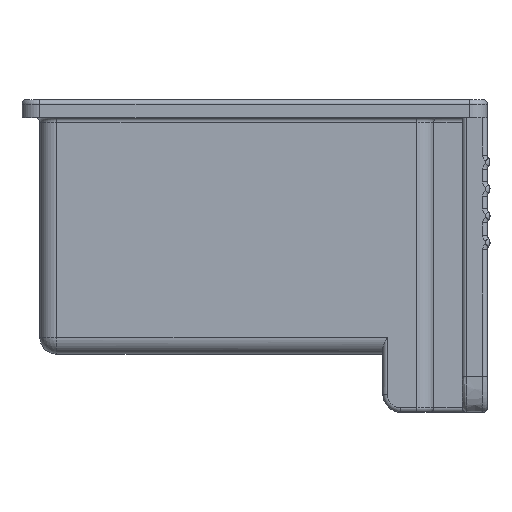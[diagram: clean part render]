
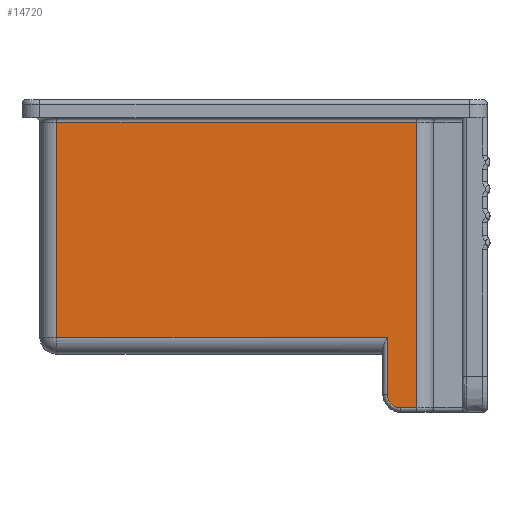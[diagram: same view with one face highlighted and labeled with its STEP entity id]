
A CAD part, left-side view. The second image highlights one B-rep face of the part: STEP entity #14720.
In plain terms, the highlighted planar face has unit normal (-1, 0, 0).
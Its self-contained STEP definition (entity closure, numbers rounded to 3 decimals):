
#3581=DIRECTION('',(0.,1.,0.));
#3582=VECTOR('',#3581,37.);
#3583=CARTESIAN_POINT('',(-46.2,11.2,-26.6));
#3584=LINE('',#3583,#3582);
#3585=DIRECTION('',(0.,0.,1.));
#3586=VECTOR('',#3585,24.1);
#3587=CARTESIAN_POINT('',(-46.2,48.2,-26.6));
#3588=LINE('',#3587,#3586);
#3589=DIRECTION('',(0.,1.,0.));
#3590=VECTOR('',#3589,40.3);
#3591=CARTESIAN_POINT('',(-46.2,7.9,-2.5));
#3592=LINE('',#3591,#3590);
#3593=DIRECTION('',(0.,0.,-1.));
#3594=VECTOR('',#3593,32.);
#3595=CARTESIAN_POINT('',(-46.2,7.9,-2.5));
#3596=LINE('',#3595,#3594);
#3597=DIRECTION('',(0.,1.,0.));
#3598=VECTOR('',#3597,1.8);
#3599=CARTESIAN_POINT('',(-46.2,7.9,-34.5));
#3600=LINE('',#3599,#3598);
#3601=CARTESIAN_POINT('',(-46.2,9.7,-33.));
#3602=DIRECTION('',(-1.,0.,0.));
#3603=DIRECTION('',(0.,1.,0.));
#3604=AXIS2_PLACEMENT_3D('',#3601,#3602,#3603);
#3778=DIRECTION('',(0.,0.,-1.));
#3779=VECTOR('',#3778,6.4);
#3780=CARTESIAN_POINT('',(-46.2,11.2,-26.6));
#3781=LINE('',#3780,#3779);
#10500=CARTESIAN_POINT('',(-46.2,11.2,-33.));
#10501=VERTEX_POINT('',#10500);
#10502=CARTESIAN_POINT('',(-46.2,9.7,-34.5));
#10503=VERTEX_POINT('',#10502);
#10866=CARTESIAN_POINT('',(-46.2,7.9,-2.5));
#10867=CARTESIAN_POINT('',(-46.2,7.9,-34.5));
#10868=VERTEX_POINT('',#10866);
#10869=VERTEX_POINT('',#10867);
#10878=CARTESIAN_POINT('',(-46.2,48.2,-2.5));
#10879=VERTEX_POINT('',#10878);
#10920=CARTESIAN_POINT('',(-46.2,11.2,-26.6));
#10921=CARTESIAN_POINT('',(-46.2,48.2,-26.6));
#10922=VERTEX_POINT('',#10920);
#10923=VERTEX_POINT('',#10921);
#14702=CARTESIAN_POINT('',(-46.2,6.,-2.));
#14703=DIRECTION('',(-1.,0.,0.));
#14704=DIRECTION('',(0.,1.,0.));
#14705=AXIS2_PLACEMENT_3D('',#14702,#14703,#14704);
#14706=PLANE('',#14705);
#14707=ORIENTED_EDGE('',*,*,#13576,.T.);
#14708=ORIENTED_EDGE('',*,*,#13610,.T.);
#14709=ORIENTED_EDGE('',*,*,#14693,.F.);
#14711=ORIENTED_EDGE('',*,*,#14710,.T.);
#14713=ORIENTED_EDGE('',*,*,#14712,.T.);
#14715=ORIENTED_EDGE('',*,*,#14714,.F.);
#14717=ORIENTED_EDGE('',*,*,#14716,.F.);
#14718=EDGE_LOOP('',(#14707,#14708,#14709,#14711,#14713,#14715,#14717));
#14719=FACE_OUTER_BOUND('',#14718,.F.);
#14720=ADVANCED_FACE('',(#14719),#14706,.T.);
#3605=CIRCLE('',#3604,1.5);
#13576=EDGE_CURVE('',#10922,#10923,#3584,.T.);
#13610=EDGE_CURVE('',#10923,#10879,#3588,.T.);
#14693=EDGE_CURVE('',#10868,#10879,#3592,.T.);
#14710=EDGE_CURVE('',#10868,#10869,#3596,.T.);
#14712=EDGE_CURVE('',#10869,#10503,#3600,.T.);
#14714=EDGE_CURVE('',#10501,#10503,#3605,.T.);
#14716=EDGE_CURVE('',#10922,#10501,#3781,.T.);
